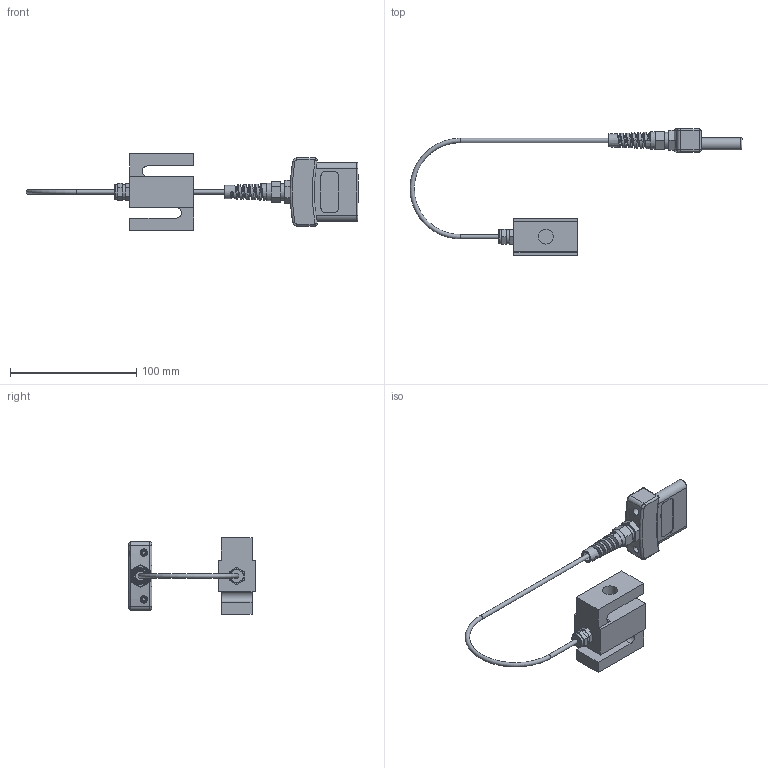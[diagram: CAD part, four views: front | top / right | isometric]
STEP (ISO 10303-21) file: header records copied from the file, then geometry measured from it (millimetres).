
FILE_DESCRIPTION((''),'2;1');
FILE_NAME('F:\CAD files\Itr\3D MARKETING MODELS\FORCE SENSORS\MR01\MR01-1500-2000.stp','2017-06-20T15:00:52',('mlampen'),(''),'Autodesk Inventor 2010','Autodesk Inventor 2010','');
FILE_SCHEMA(('AUTOMOTIVE_DESIGN { 1 0 10303 214 1 1 1 1 }'));
Length unit declared in the file: inch
Products named in the file (1): Part2
Bounding box: 262.96 x 99.95 x 60.96 mm (x, y, z)
Volume: 103055.2 mm3; surface area: 32606.3 mm2
Topology: 4 solids, 4 shells, 357 faces, 967 edges, 640 vertices
Faces by surface type: plane 149, bspline 81, cylinder 70, cone 42, torus 11, sphere 4
Full cylindrical faces by diameter (mm): 3.175 x2, 3.429 x2, 4.648 x2, 5.842 x2, 7.62 x6, 11.176 x1, 11.24 x2, 11.875 x2, 12.7 x1
Entity records: 17849 total; most frequent: CARTESIAN_POINT 10066, ORIENTED_EDGE 1808, DIRECTION 1288, EDGE_CURVE 904, VERTEX_POINT 626, AXIS2_PLACEMENT_3D 484, EDGE_LOOP 418, FACE_OUTER_BOUND 347
